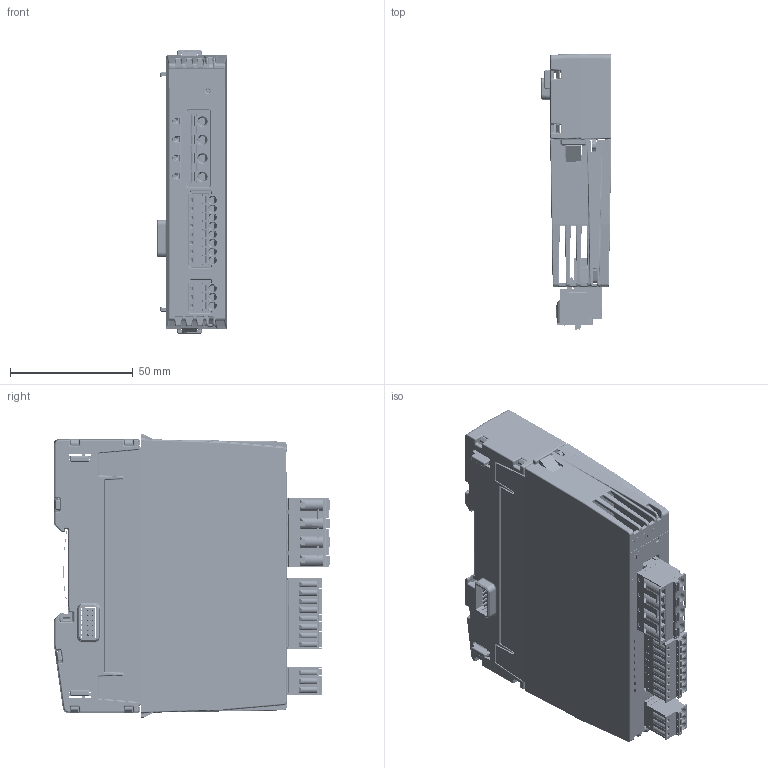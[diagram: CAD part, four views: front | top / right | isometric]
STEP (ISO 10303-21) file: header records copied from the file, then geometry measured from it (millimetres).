
FILE_DESCRIPTION(/* description */ (''),/* implementation_level */ '2;1');
FILE_NAME(/* name */ 'C:\Users\Public\Documents\Autodesk\Inventor 2023\PM04C_Simplified+BackBB21B.stp',/* time_stamp */ '2024-10-18T22:35:27+02:00',/* author */ ('shoma'),/* organization */ (''),/* preprocessor_version */ 'ST-DEVELOPER v19',/* originating_system */ 'Autodesk Inventor 2023',/* authorisation */ '');
FILE_SCHEMA (('AUTOMOTIVE_DESIGN { 1 0 10303 214 3 1 1 }'));
Products named in the file (1): PM04C_Simplified+BackBB21B
Bounding box: 28.9 x 112.6 x 115.5 mm (x, y, z)
Volume: 134090.4 mm3; surface area: 87889.7 mm2
Topology: 8 solids, 41 shells, 8256 faces, 22064 edges, 13871 vertices
Faces by surface type: plane 5310, cylinder 2059, bspline 543, sphere 163, cone 135, torus 46
Full cylindrical faces by diameter (mm): 0.296 x2, 0.3 x36, 0.434 x1, 0.457 x2, 0.7 x36, 0.8 x6, 0.85 x24, 0.9 x8, 1.17 x11, 1.25 x11, 1.3 x11, 1.4 x8, 1.5 x4, 1.6 x9, 2.35 x2, 2.5 x1, 2.8 x3, 3 x5, 3.1 x11, 3.25 x2, 4 x4
Entity records: 279741 total; most frequent: CARTESIAN_POINT 65311, ORIENTED_EDGE 43782, DIRECTION 41667, EDGE_CURVE 21891, LINE 15937, VECTOR 15937, VERTEX_POINT 13867, AXIS2_PLACEMENT_3D 12865
